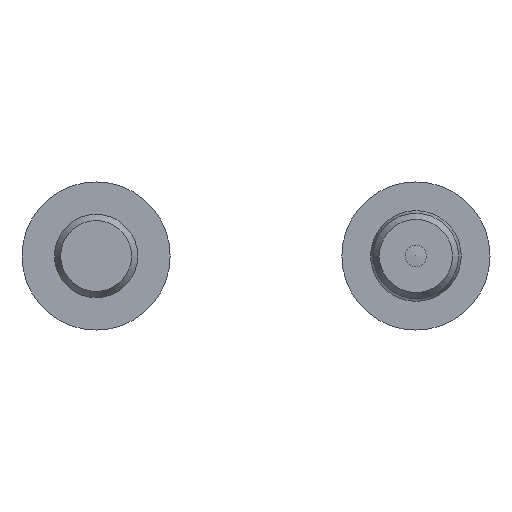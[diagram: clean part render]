
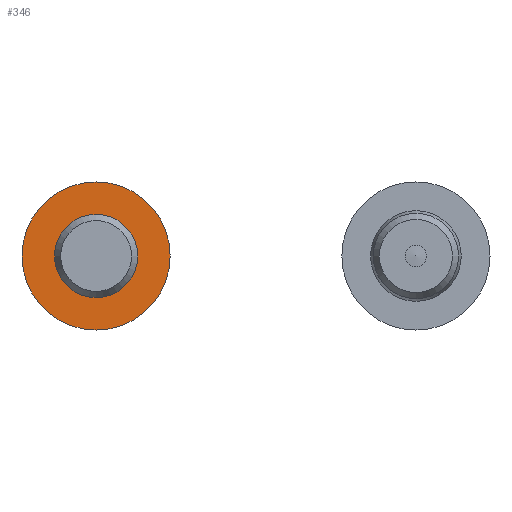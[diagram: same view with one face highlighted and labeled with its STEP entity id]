
A CAD part, front view. The second image highlights one B-rep face of the part: STEP entity #346.
In plain terms, the highlighted planar face has unit normal (0, -1, 0).
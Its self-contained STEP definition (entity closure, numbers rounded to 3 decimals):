
#346 = ADVANCED_FACE( '', ( #471, #472 ), #473, .F. );
#471 = FACE_BOUND( '', #659, .T. );
#472 = FACE_OUTER_BOUND( '', #660, .T. );
#473 = PLANE( '', #661 );
#659 = EDGE_LOOP( '', ( #906 ) );
#660 = EDGE_LOOP( '', ( #907 ) );
#661 = AXIS2_PLACEMENT_3D( '', #908, #909, #910 );
#906 = ORIENTED_EDGE( '', *, *, #1100, .F. );
#907 = ORIENTED_EDGE( '', *, *, #1101, .T. );
#908 = CARTESIAN_POINT( '', ( 6.95, 6., 0. ) );
#909 = DIRECTION( '', ( 0., 1., 0. ) );
#910 = DIRECTION( '', ( 0., 0., 1. ) );
#1100 = EDGE_CURVE( '', #1191, #1191, #1192, .T. );
#1101 = EDGE_CURVE( '', #1193, #1193, #1194, .T. );
#1191 = VERTEX_POINT( '', #1311 );
#1192 = CIRCLE( '', #1312, 3.9 );
#1193 = VERTEX_POINT( '', #1313 );
#1194 = CIRCLE( '', #1314, 6.95 );
#1311 = CARTESIAN_POINT( '', ( 0., 6., -3.9 ) );
#1312 = AXIS2_PLACEMENT_3D( '', #1460, #1461, #1462 );
#1313 = CARTESIAN_POINT( '', ( 0., 6., -6.95 ) );
#1314 = AXIS2_PLACEMENT_3D( '', #1463, #1464, #1465 );
#1460 = CARTESIAN_POINT( '', ( 0., 6., 0. ) );
#1461 = DIRECTION( '', ( 0., -1., 0. ) );
#1462 = DIRECTION( '', ( 0., 0., -1. ) );
#1463 = CARTESIAN_POINT( '', ( 0., 6., 0. ) );
#1464 = DIRECTION( '', ( 0., -1., 0. ) );
#1465 = DIRECTION( '', ( 0., 0., -1. ) );
